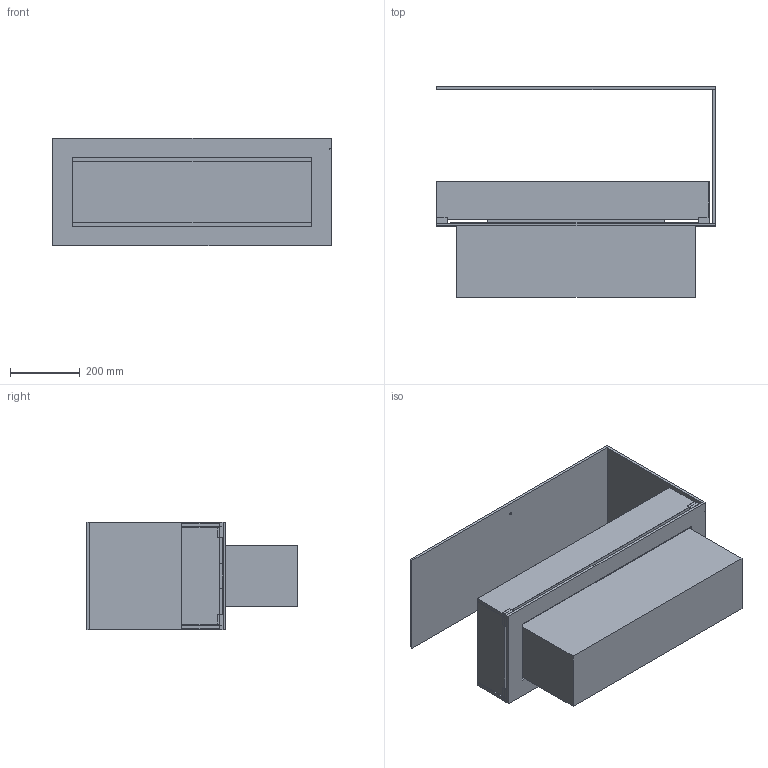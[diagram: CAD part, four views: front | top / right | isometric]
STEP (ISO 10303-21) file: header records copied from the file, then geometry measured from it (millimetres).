
FILE_DESCRIPTION (( 'STEP AP203' ), '1' );
FILE_NAME ('Montreal open to front, back and 1 side 800 Hybrid Mist.STEP', '2024-03-21T14:31:23', ( '' ), ( '' ), 'SwSTEP 2.0', 'SolidWorks 2023', '' );
FILE_SCHEMA (( 'CONFIG_CONTROL_DESIGN' ));
Length unit declared in the file: millimetre
Products named in the file (9): Denver F6_uden glass; Part3^P&G -1120SI Montreal Single AUTOShowroom -look book; Glas holder flad med sider 10mm; Montreal open to front, back and 1 side 800 Hybrid Mist; 8mm alu Top - P&G -1120SIShowroom -look book; Part4^P&G -1120SI Montreal Single AUTOShowroom -look book; 8mm alu Side - P&G -1120SIShowroom -look book_Glass; 8mm alu Bund - P&G -1120SIShowroom -look book; Part2^P&G -1120SI Montreal Single AUTOShowroom -look book
Assembly tree (13 placements, depth 2):
  Part3^P&G -1120SI Montreal Single AUTOShowroom -look book
  Montreal open to front, back and 1 side 800 Hybrid Mist
    8mm alu Top - P&G -1120SIShowroom -look book
    8mm alu Bund - P&G -1120SIShowroom -look book
    8mm alu Side - P&G -1120SIShowroom -look book_Glass
    Glas holder flad med sider 10mm  x6
    Part2^P&G -1120SI Montreal Single AUTOShowroom -look book
    Part4^P&G -1120SI Montreal Single AUTOShowroom -look book  x2
    Denver F6_uden glass
Bounding box: 800 x 605 x 308 mm (x, y, z)
Volume: 32494450.1 mm3; surface area: 2462513.2 mm2
Topology: 17 solids, 17 shells, 244 faces, 545 edges, 342 vertices
Faces by surface type: plane 214, cylinder 30
Entity records: 5372 total; most frequent: CARTESIAN_POINT 744, DIRECTION 736, ORIENTED_EDGE 704, EDGE_CURVE 352, VECTOR 312, LINE 312, VERTEX_POINT 220, AXIS2_PLACEMENT_3D 212
